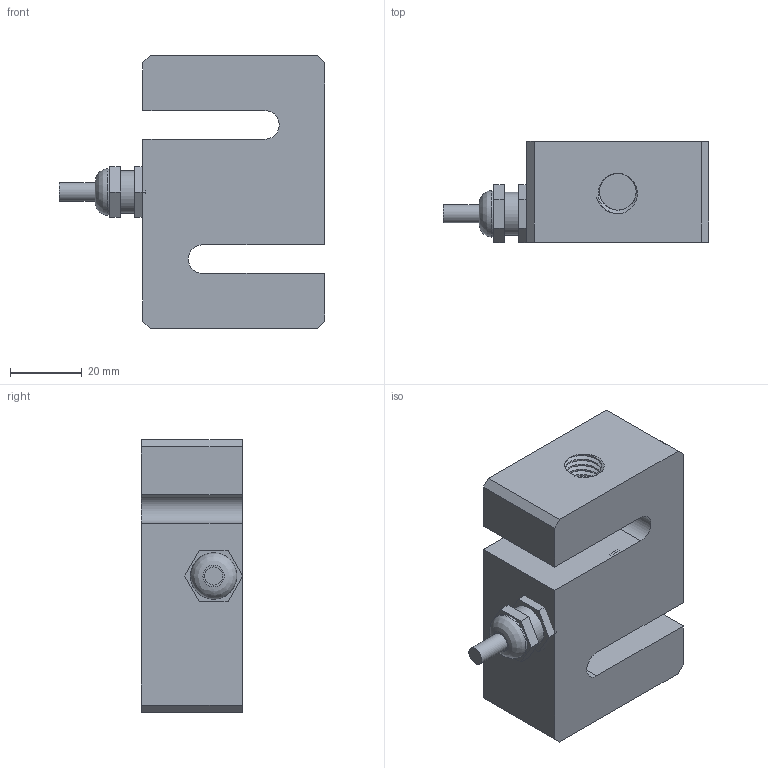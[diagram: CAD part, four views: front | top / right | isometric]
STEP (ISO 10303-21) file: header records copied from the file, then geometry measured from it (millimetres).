
FILE_DESCRIPTION(/* description */ (''),/* implementation_level */ '2;1');
FILE_NAME(/* name */ 'C:/Users/fardi/Dropbox/Anyload/Load Cell Models/3D Drawing/101/101BH-(300-1500)kg v4.step',/* time_stamp */ '2020-01-22T15:32:49-08:00',/* author */ (''),/* organization */ (''),/* preprocessor_version */ 'ST-DEVELOPER v18',/* originating_system */ 'Autodesk Translation Framework v8.12.0.6',/* authorisation */ '');
FILE_SCHEMA (('AUTOMOTIVE_DESIGN { 1 0 10303 214 3 1 1 }'));
Length unit declared in the file: millimetre
Products named in the file (2): 101BH-(300-1500)kg; Connector v1
Assembly tree (1 placements, depth 2):
  101BH-(300-1500)kg
    Connector v1
Bounding box: 74.16 x 28.28 x 76.2 mm (x, y, z)
Volume: 77075.4 mm3; surface area: 24671.6 mm2
Topology: 2 solids, 4 shells, 98 faces, 232 edges, 149 vertices
Faces by surface type: cylinder 51, plane 42, bspline 5
Full cylindrical faces by diameter (mm): 5.1 x1, 10 x1, 10.274 x14, 12 x1, 12.226 x18, 13 x1, 26.6 x1, 27.8 x2, 29.4 x2
Entity records: 6822 total; most frequent: CARTESIAN_POINT 4641, ORIENTED_EDGE 464, DIRECTION 380, EDGE_CURVE 232, VERTEX_POINT 149, AXIS2_PLACEMENT_3D 127, LINE 126, VECTOR 126
